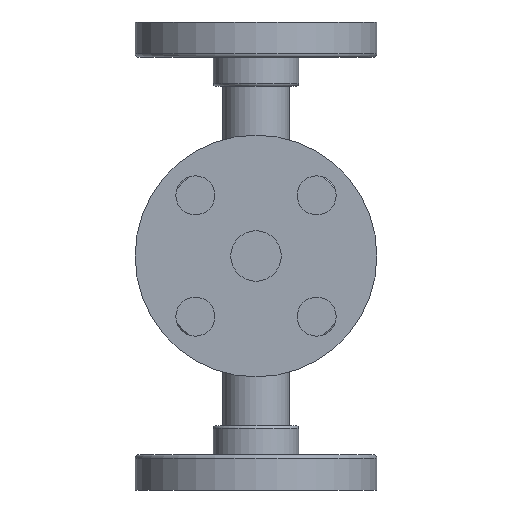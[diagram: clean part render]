
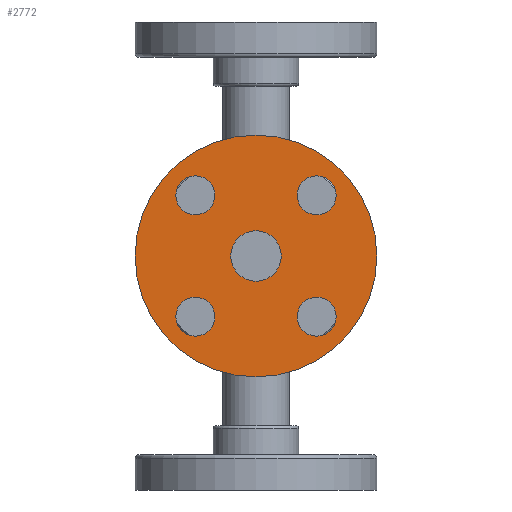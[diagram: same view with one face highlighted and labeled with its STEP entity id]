
A CAD part, front view. The second image highlights one B-rep face of the part: STEP entity #2772.
In plain terms, the highlighted planar face has unit normal (0, -1, 0).
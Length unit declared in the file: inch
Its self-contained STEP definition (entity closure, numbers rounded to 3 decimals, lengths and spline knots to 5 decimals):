
#335 = DIRECTION ( 'NONE',  ( 0., 0., 1. ) ) ;
#356 = CARTESIAN_POINT ( 'NONE',  ( 0.97227, -2.625, -0.97227 ) ) ;
#370 = CIRCLE ( 'NONE', #5090, 1.9375 ) ;
#396 = CARTESIAN_POINT ( 'NONE',  ( 0.97227, -2.625, 0.97227 ) ) ;
#542 = EDGE_LOOP ( 'NONE', ( #1788, #1389 ) ) ;
#559 = EDGE_LOOP ( 'NONE', ( #5445, #3711 ) ) ;
#632 = VERTEX_POINT ( 'NONE', #4242 ) ;
#664 = CIRCLE ( 'NONE', #1388, 0.3125 ) ;
#769 = EDGE_CURVE ( 'NONE', #5370, #632, #370, .T. ) ;
#841 = VERTEX_POINT ( 'NONE', #2248 ) ;
#882 = DIRECTION ( 'NONE',  ( 0., 0., -1. ) ) ;
#901 = CIRCLE ( 'NONE', #2115, 1.9375 ) ;
#919 = DIRECTION ( 'NONE',  ( 1., 0., 0. ) ) ;
#954 = CARTESIAN_POINT ( 'NONE',  ( -0.97227, -2.625, -0.97227 ) ) ;
#974 = EDGE_CURVE ( 'NONE', #1953, #5878, #3973, .T. ) ;
#981 = CARTESIAN_POINT ( 'NONE',  ( 0.97227, -2.625, -0.65977 ) ) ;
#1237 = ORIENTED_EDGE ( 'NONE', *, *, #1700, .T. ) ;
#1260 = AXIS2_PLACEMENT_3D ( 'NONE', #5357, #2569, #5837 ) ;
#1270 = ORIENTED_EDGE ( 'NONE', *, *, #1663, .T. ) ;
#1286 = DIRECTION ( 'NONE',  ( 0., 1., 0. ) ) ;
#1298 = DIRECTION ( 'NONE',  ( 0., 1., 0. ) ) ;
#1313 = CARTESIAN_POINT ( 'NONE',  ( 0., -2.625, 0. ) ) ;
#1348 = EDGE_LOOP ( 'NONE', ( #5836, #4290 ) ) ;
#1381 = CARTESIAN_POINT ( 'NONE',  ( 0., -2.625, 1.9375 ) ) ;
#1388 = AXIS2_PLACEMENT_3D ( 'NONE', #954, #4189, #1441 ) ;
#1389 = ORIENTED_EDGE ( 'NONE', *, *, #1711, .T. ) ;
#1441 = DIRECTION ( 'NONE',  ( -1., 0., 0. ) ) ;
#1540 = ORIENTED_EDGE ( 'NONE', *, *, #1755, .T. ) ;
#1653 = CIRCLE ( 'NONE', #1260, 0.3125 ) ;
#1663 = EDGE_CURVE ( 'NONE', #4764, #3714, #2412, .T. ) ;
#1691 = EDGE_CURVE ( 'NONE', #632, #5370, #901, .T. ) ;
#1700 = EDGE_CURVE ( 'NONE', #5878, #1953, #4584, .T. ) ;
#1711 = EDGE_CURVE ( 'NONE', #1732, #841, #1992, .T. ) ;
#1732 = VERTEX_POINT ( 'NONE', #4146 ) ;
#1743 = EDGE_CURVE ( 'NONE', #3714, #4764, #5546, .T. ) ;
#1751 = ORIENTED_EDGE ( 'NONE', *, *, #974, .T. ) ;
#1755 = EDGE_CURVE ( 'NONE', #5019, #5153, #3213, .T. ) ;
#1783 = DIRECTION ( 'NONE',  ( 0., 0., 1. ) ) ;
#1788 = ORIENTED_EDGE ( 'NONE', *, *, #4676, .T. ) ;
#1870 = CARTESIAN_POINT ( 'NONE',  ( -0.97227, -2.625, -0.97227 ) ) ;
#1882 = AXIS2_PLACEMENT_3D ( 'NONE', #2296, #5548, #2751 ) ;
#1917 = AXIS2_PLACEMENT_3D ( 'NONE', #396, #3691, #919 ) ;
#1949 = AXIS2_PLACEMENT_3D ( 'NONE', #2730, #6019, #3206 ) ;
#1953 = VERTEX_POINT ( 'NONE', #3564 ) ;
#1992 = CIRCLE ( 'NONE', #1949, 0.3125 ) ;
#1995 = AXIS2_PLACEMENT_3D ( 'NONE', #356, #3652, #882 ) ;
#2046 = EDGE_CURVE ( 'NONE', #3323, #5935, #664, .T. ) ;
#2086 = CARTESIAN_POINT ( 'NONE',  ( 0., -2.625, 0. ) ) ;
#2115 = AXIS2_PLACEMENT_3D ( 'NONE', #5975, #3166, #335 ) ;
#2184 = AXIS2_PLACEMENT_3D ( 'NONE', #1313, #4523, #1783 ) ;
#2248 = CARTESIAN_POINT ( 'NONE',  ( -0.97227, -2.625, 0.65977 ) ) ;
#2255 = CARTESIAN_POINT ( 'NONE',  ( 0., -2.625, 0.404 ) ) ;
#2296 = CARTESIAN_POINT ( 'NONE',  ( 0., -2.625, 0. ) ) ;
#2317 = DIRECTION ( 'NONE',  ( -1., 0., 0. ) ) ;
#2349 = EDGE_LOOP ( 'NONE', ( #1751, #1237 ) ) ;
#2412 = CIRCLE ( 'NONE', #2184, 0.404 ) ;
#2525 = CARTESIAN_POINT ( 'NONE',  ( 0.97227, -2.625, 0.65977 ) ) ;
#2530 = PLANE ( 'NONE',  #2560 ) ;
#2552 = DIRECTION ( 'NONE',  ( 0., 0., 1. ) ) ;
#2560 = AXIS2_PLACEMENT_3D ( 'NONE', #2086, #5335, #2552 ) ;
#2569 = DIRECTION ( 'NONE',  ( 0., 1., 0. ) ) ;
#2716 = DIRECTION ( 'NONE',  ( 0., 1., 0. ) ) ;
#2730 = CARTESIAN_POINT ( 'NONE',  ( -0.97227, -2.625, 0.97227 ) ) ;
#2751 = DIRECTION ( 'NONE',  ( 0., 0., 1. ) ) ;
#2772 = ADVANCED_FACE ( 'NONE', ( #5315, #4218, #5611, #2992, #4089, #2827 ), #2530, .F. ) ;
#2784 = EDGE_CURVE ( 'NONE', #5153, #5019, #1653, .T. ) ;
#2827 = FACE_BOUND ( 'NONE', #1348, .T. ) ;
#2992 = FACE_BOUND ( 'NONE', #4801, .T. ) ;
#3166 = DIRECTION ( 'NONE',  ( 0., 1., 0. ) ) ;
#3206 = DIRECTION ( 'NONE',  ( 0., 0., 1. ) ) ;
#3213 = CIRCLE ( 'NONE', #1917, 0.3125 ) ;
#3323 = VERTEX_POINT ( 'NONE', #5506 ) ;
#3357 = CARTESIAN_POINT ( 'NONE',  ( 0.97227, -2.625, 1.28477 ) ) ;
#3564 = CARTESIAN_POINT ( 'NONE',  ( 0.97227, -2.625, -1.28477 ) ) ;
#3652 = DIRECTION ( 'NONE',  ( 0., 1., 0. ) ) ;
#3691 = DIRECTION ( 'NONE',  ( 0., 1., 0. ) ) ;
#3711 = ORIENTED_EDGE ( 'NONE', *, *, #769, .F. ) ;
#3714 = VERTEX_POINT ( 'NONE', #4909 ) ;
#3762 = CARTESIAN_POINT ( 'NONE',  ( -0.97227, -2.625, -1.28477 ) ) ;
#3973 = CIRCLE ( 'NONE', #4689, 0.3125 ) ;
#4046 = CARTESIAN_POINT ( 'NONE',  ( -0.97227, -2.625, 0.97227 ) ) ;
#4061 = CARTESIAN_POINT ( 'NONE',  ( 0., -2.625, 0. ) ) ;
#4089 = FACE_BOUND ( 'NONE', #6101, .T. ) ;
#4146 = CARTESIAN_POINT ( 'NONE',  ( -0.97227, -2.625, 1.28477 ) ) ;
#4189 = DIRECTION ( 'NONE',  ( 0., 1., 0. ) ) ;
#4218 = FACE_BOUND ( 'NONE', #542, .T. ) ;
#4242 = CARTESIAN_POINT ( 'NONE',  ( 0., -2.625, -1.9375 ) ) ;
#4290 = ORIENTED_EDGE ( 'NONE', *, *, #2046, .T. ) ;
#4401 = CIRCLE ( 'NONE', #4528, 0.3125 ) ;
#4491 = CIRCLE ( 'NONE', #4730, 0.3125 ) ;
#4493 = DIRECTION ( 'NONE',  ( 0., 0., 1. ) ) ;
#4509 = DIRECTION ( 'NONE',  ( 0., 0., 1. ) ) ;
#4515 = ORIENTED_EDGE ( 'NONE', *, *, #2784, .T. ) ;
#4523 = DIRECTION ( 'NONE',  ( 0., 1., 0. ) ) ;
#4528 = AXIS2_PLACEMENT_3D ( 'NONE', #1870, #5099, #2317 ) ;
#4584 = CIRCLE ( 'NONE', #1995, 0.3125 ) ;
#4676 = EDGE_CURVE ( 'NONE', #841, #1732, #4491, .T. ) ;
#4689 = AXIS2_PLACEMENT_3D ( 'NONE', #5512, #2716, #6004 ) ;
#4730 = AXIS2_PLACEMENT_3D ( 'NONE', #4046, #1286, #4493 ) ;
#4764 = VERTEX_POINT ( 'NONE', #2255 ) ;
#4801 = EDGE_LOOP ( 'NONE', ( #5509, #1270 ) ) ;
#4909 = CARTESIAN_POINT ( 'NONE',  ( 0., -2.625, -0.404 ) ) ;
#4928 = EDGE_CURVE ( 'NONE', #5935, #3323, #4401, .T. ) ;
#5019 = VERTEX_POINT ( 'NONE', #3357 ) ;
#5090 = AXIS2_PLACEMENT_3D ( 'NONE', #4061, #1298, #4509 ) ;
#5099 = DIRECTION ( 'NONE',  ( 0., 1., 0. ) ) ;
#5153 = VERTEX_POINT ( 'NONE', #2525 ) ;
#5315 = FACE_BOUND ( 'NONE', #2349, .T. ) ;
#5335 = DIRECTION ( 'NONE',  ( 0., 1., 0. ) ) ;
#5357 = CARTESIAN_POINT ( 'NONE',  ( 0.97227, -2.625, 0.97227 ) ) ;
#5370 = VERTEX_POINT ( 'NONE', #1381 ) ;
#5445 = ORIENTED_EDGE ( 'NONE', *, *, #1691, .F. ) ;
#5506 = CARTESIAN_POINT ( 'NONE',  ( -0.97227, -2.625, -0.65977 ) ) ;
#5509 = ORIENTED_EDGE ( 'NONE', *, *, #1743, .T. ) ;
#5512 = CARTESIAN_POINT ( 'NONE',  ( 0.97227, -2.625, -0.97227 ) ) ;
#5546 = CIRCLE ( 'NONE', #1882, 0.404 ) ;
#5548 = DIRECTION ( 'NONE',  ( 0., 1., 0. ) ) ;
#5611 = FACE_OUTER_BOUND ( 'NONE', #559, .T. ) ;
#5836 = ORIENTED_EDGE ( 'NONE', *, *, #4928, .T. ) ;
#5837 = DIRECTION ( 'NONE',  ( 1., 0., 0. ) ) ;
#5878 = VERTEX_POINT ( 'NONE', #981 ) ;
#5935 = VERTEX_POINT ( 'NONE', #3762 ) ;
#5975 = CARTESIAN_POINT ( 'NONE',  ( 0., -2.625, 0. ) ) ;
#6004 = DIRECTION ( 'NONE',  ( 0., 0., -1. ) ) ;
#6019 = DIRECTION ( 'NONE',  ( 0., 1., 0. ) ) ;
#6101 = EDGE_LOOP ( 'NONE', ( #4515, #1540 ) ) ;
